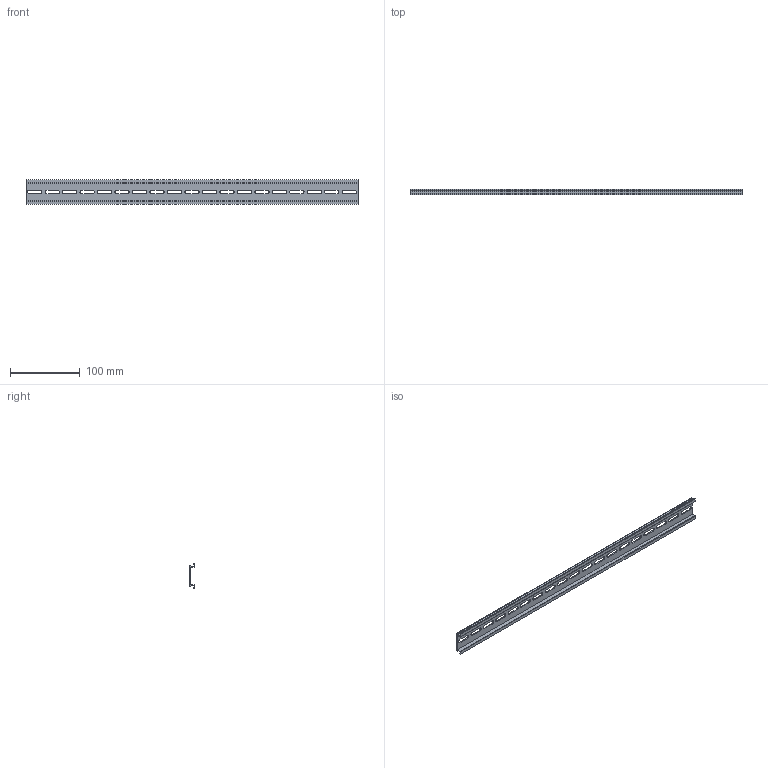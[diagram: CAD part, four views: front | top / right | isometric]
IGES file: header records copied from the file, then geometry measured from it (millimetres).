
Start section: ------------------------------------------------------------------------
Global section: file name: D:\ICADMX\tmp\trans3d_spg\CVICAD02.21224.DIN-RAIL475_7890.igs; native system: spGate; preprocessor: ver12.6.6; author: Unknown; organization: Unknown; date: 200901.142056; units: millimetre
Bounding box: 475 x 7.5 x 35 mm (x, y, z)
Volume: 33534.3 mm3; surface area: 44819.4 mm2
Topology: 1 solids, 1 shells, 96 faces, 282 edges, 188 vertices
Faces by surface type: bspline 96
